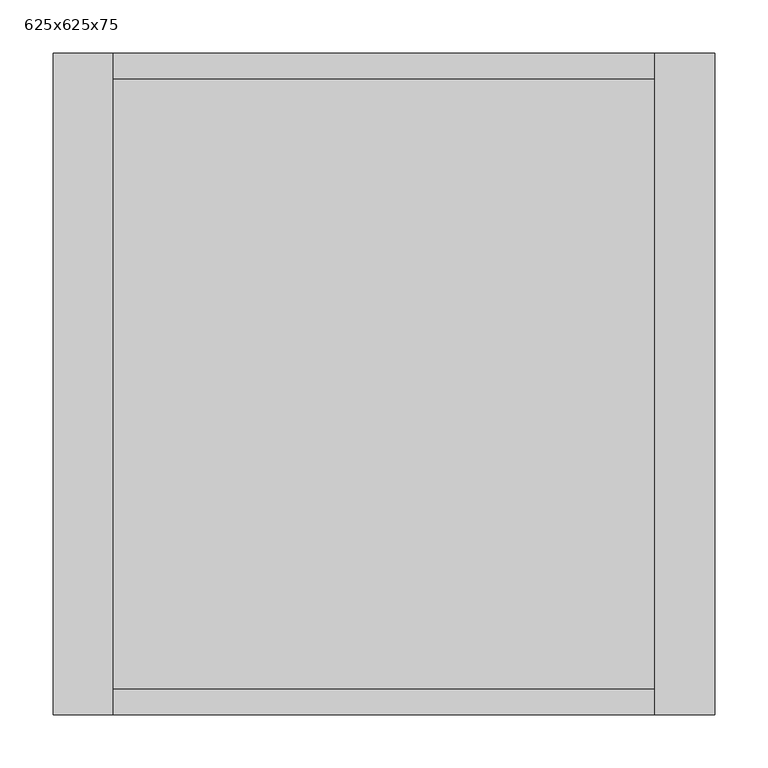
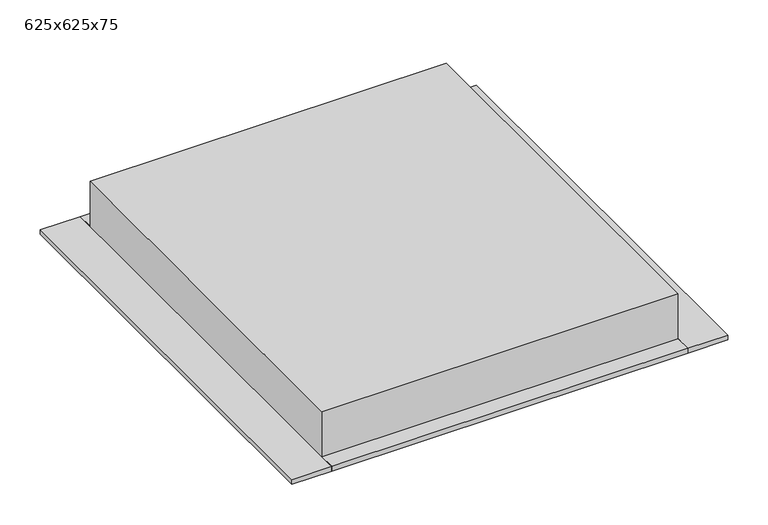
"""IFC4 building model written with IfcOpenShell, lengths in millimetres: light fixture geometry, OWA Lifetime LED : 625x625x75."""

from ifc_helpers import new_model, si_unit, frame, origin, place, context, project, spatial, polyline, outline, extrude, faceted_brep, source, transform, mapped, element, save


def light_fixture_625x625x75_e0756536(model_context):
    return source(origin(), model_context, "Body", "SolidModel", [
        faceted_brep([(254.3, 286.5, 4075.0), (-254.3, 286.5, 4075.0), (-254.3, -286.5, 4075.0), (254.3, -286.5, 4075.0), (231.8, 265.3, 4014.0), (231.8, -265.3, 4014.0), (-231.8, -265.3, 4014.0), (-231.8, 265.3, 4014.0), (254.3, 286.5, 4000.0), (-254.3, 286.5, 4000.0), (-254.3, -286.5, 4000.0), (254.3, -286.5, 4000.0), (231.8, 265.3, 4000.0), (-231.8, 265.3, 4000.0), (-231.8, -265.3, 4000.0), (231.8, -265.3, 4000.0)], [[[0, 1, 2, 3]], [[4, 5, 6, 7]], [[1, 0, 8, 9]], [[2, 1, 9, 10]], [[3, 2, 10, 11]], [[8, 0, 3, 11]], [[8, 11, 10, 9], [12, 13, 14, 15]], [[12, 15, 5, 4]], [[15, 14, 6, 5]], [[14, 13, 7, 6]], [[13, 12, 4, 7]]]),
        extrude(outline(polyline([(231.8, 265.3), (231.8, -265.3), (-231.8, -265.3), (-231.8, 265.3), (231.8, 265.3)])), frame((0.0, 0.0, 4000.0), z_axis=(0.0, 0.0, 1.0), x_axis=(1.0, 0.0, 0.0)), (0.0, 0.0, 1.0), 7.0),
        extrude(outline(polyline([(254.3, 311.0), (254.3, 286.5), (-254.3, 286.5), (-254.3, 311.0), (254.3, 311.0)])), frame((0.0, 0.0, 4000.0), z_axis=(0.0, 0.0, 1.0), x_axis=(1.0, 0.0, 0.0)), (0.0, 0.0, 1.0), 7.0),
        extrude(outline(polyline([(254.3, -311.0), (-254.3, -311.0), (-254.3, -286.5), (254.3, -286.5), (254.3, -311.0)])), frame((0.0, 0.0, 4000.0), z_axis=(0.0, 0.0, 1.0), x_axis=(1.0, 0.0, 0.0)), (0.0, 0.0, 1.0), 7.0),
        extrude(outline(polyline([(-254.3, 311.0), (-254.3, -311.0), (-311.0, -311.0), (-311.0, 311.0), (-254.3, 311.0)])), frame((0.0, 0.0, 4000.0), z_axis=(0.0, 0.0, 1.0), x_axis=(1.0, 0.0, 0.0)), (0.0, 0.0, 1.0), 7.0),
        extrude(outline(polyline([(254.3, 311.0), (311.0, 311.0), (311.0, -311.0), (254.3, -311.0), (254.3, 311.0)])), frame((0.0, 0.0, 4000.0), z_axis=(0.0, 0.0, 1.0), x_axis=(1.0, 0.0, 0.0)), (0.0, 0.0, 1.0), 7.0),
    ])


if __name__ == "__main__":
    model = new_model("IFC4")
    model_context = context("Model", 3, world=origin())
    ifc_project = project(units=[si_unit("LENGTHUNIT", "METRE", prefix="MILLI")], contexts=[model_context])
    site = spatial("IfcSite", under=ifc_project)
    building = spatial("IfcBuilding", under=site)
    placement = place(None, origin())
    light_fixture_625x625x75_shape = light_fixture_625x625x75_e0756536(model_context)
    element("IfcLightFixture", 1, ObjectType="OWA Lifetime LED : 625x625x75", at=placement, inside=building, context=model_context, shape_type="MappedRepresentation", body=[
        mapped(light_fixture_625x625x75_shape, transform((0.0, 0.0, 0.0), x_axis=(1.0, 0.0, 0.0), y_axis=(0.0, 1.0, 0.0), z_axis=(0.0, 0.0, 1.0))),
    ])
    save(model, "model.ifc")
